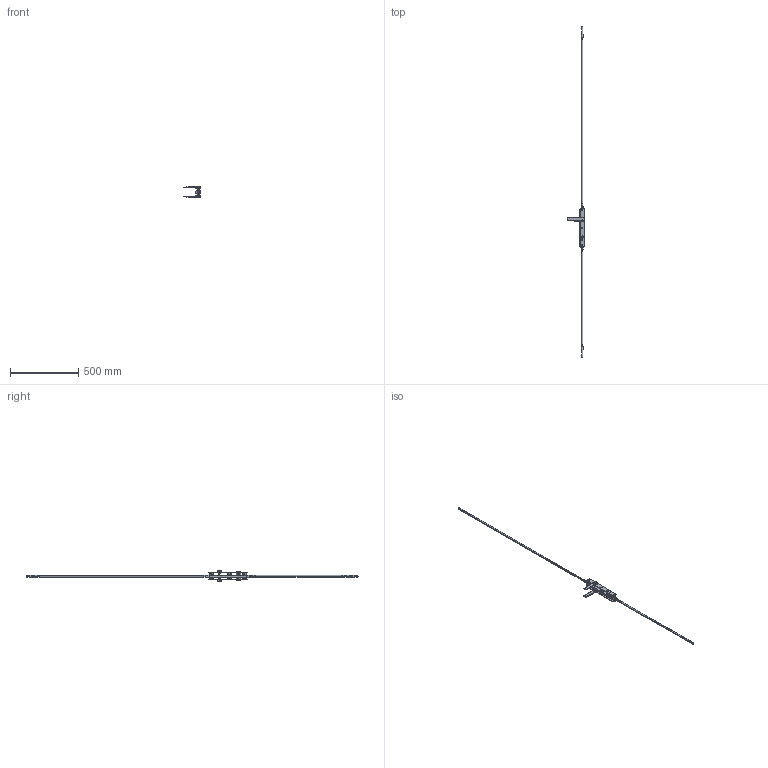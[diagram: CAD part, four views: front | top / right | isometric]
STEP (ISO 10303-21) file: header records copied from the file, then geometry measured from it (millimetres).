
FILE_DESCRIPTION (( 'STEP AP214' ), '1' );
FILE_NAME ('TPL-H-APC-106-A 17Oct2024.STEP', '2024-10-17T04:39:36', ( '' ), ( '' ), 'SwSTEP 2.0', 'SolidWorks 2023', '' );
FILE_SCHEMA (( 'AUTOMOTIVE_DESIGN' ));
Length unit declared in the file: millimetre
Products named in the file (23): Copy of LKC-585 Rotator body zinc^Copy (2) of TPGen2 handle keyed internal zinc - simplified_TPL-H-APC-608 16Oct2024; Copy of LKC-585 Rotator body zinc^Copy of TPGen2 handle keyed external zinc - simplified_TPL-H-APC-608 16Oct2024; Copy of TPLGen2 push rod - simplified^Copy (2) of TPLGen2 lock body keyed assembly_TPL-H-APC-608 16Oct2024_Female thread M10; Copy of LKC-584 Pivot body zinc - simplified^Copy of TPGen2 handle keyed external zinc - simplified_TPL-H-APC-608 16Oct2024; Copy of LKC-505 Swing handle zinc - simplified^Copy (2) of TPGen2 handle keyed internal zinc - simplified_TPL-H-APC-608 16Oct2024; Copy of TPLGen2 lock body keyed^Copy (2) of TPLGen2 lock body keyed assembly_TPL-H-APC-608 16Oct2024_Left; Copy of LKC-512 Escutcheon plate keyed internal 285mm long zinc - simplified^Copy (2) of TPGen2 handle keyed internal zinc - simplified_TPL-H-APC-608 16Oct2024; Copy of LKC-540 Transmission rod aluminium system TPLGen2^TPL-H-APC-608 16Oct2024_2885mm; Copy of LKC-586 Spindle square 8mm with M4 hole^Copy (2) of TPGen2 handle keyed internal zinc - simplified_TPL-H-APC-608 16Oct2024_46mm; Copy of TPL-H-APC-517 04Oct2024^TPL-H-APC-608 16Oct2024; Copy of TPGen2 handle keyed external zinc - simplified^TPL-H-APC-608 16Oct2024_Right; Copy of TPL-H-APC-516 04Oct2024^TPL-H-APC-608 16Oct2024; Copy of LKC-584 Pivot body zinc - simplified^Copy (2) of TPGen2 handle keyed internal zinc - simplified_TPL-H-APC-608 16Oct2024; Copy of LKC-505 Swing handle zinc - simplified^Copy of TPGen2 handle keyed external zinc - simplified_TPL-H-APC-608 16Oct2024; Copy (2) of TPL-H-APC-515 04Oct2024^TPL-H-APC-608 16Oct2024; Copy of TPL-021 Lock cylinder double key C4 5 pin 62 (30-32)mm^TPL-H-APC-608 16Oct2024_Right; Copy (2) of TPGen2 handle keyed internal zinc - simplified^TPL-H-APC-608 16Oct2024_Left; Copy of LKC-576 Bolt adaptor - simplified^TPL-H-APC-608 16Oct2024; Copy of LKC-514 Escutcheon plate keyed external 285mm long zinc - simplified^Copy of TPGen2 handle keyed external zinc - simplified_TPL-H-APC-608 16Oct2024; Copy (2) of TPLGen2 lock body keyed assembly^TPL-H-APC-608 16Oct2024_Bolts retracted - left; Copy of LKC-532 Rod connector - simplified^TPL-H-APC-608 16Oct2024; TPL-H-APC-106-A 17Oct2024; Copy (2) of LKC-540 Transmission rod aluminium system TPLGen2^TPL-H-APC-608 16Oct2024_2885mm
Assembly tree (30 placements, depth 3):
  TPL-H-APC-106-A 17Oct2024
    Copy (2) of TPLGen2 lock body keyed assembly^TPL-H-APC-608 16Oct2024_Bolts retracted - left
      Copy of TPLGen2 lock body keyed^Copy (2) of TPLGen2 lock body keyed assembly_TPL-H-APC-608 16Oct2024_Left
      Copy of TPLGen2 push rod - simplified^Copy (2) of TPLGen2 lock body keyed assembly_TPL-H-APC-608 16Oct2024_Female thread M10  x2
    Copy (2) of TPGen2 handle keyed internal zinc - simplified^TPL-H-APC-608 16Oct2024_Left
      Copy of LKC-512 Escutcheon plate keyed internal 285mm long zinc - simplified^Copy (2) of TPGen2 handle keyed internal zinc - simplified_TPL-H-APC-608 16Oct2024
      Copy of LKC-505 Swing handle zinc - simplified^Copy (2) of TPGen2 handle keyed internal zinc - simplified_TPL-H-APC-608 16Oct2024
      Copy of LKC-585 Rotator body zinc^Copy (2) of TPGen2 handle keyed internal zinc - simplified_TPL-H-APC-608 16Oct2024
      Copy of LKC-586 Spindle square 8mm with M4 hole^Copy (2) of TPGen2 handle keyed internal zinc - simplified_TPL-H-APC-608 16Oct2024_46mm
      Copy of LKC-584 Pivot body zinc - simplified^Copy (2) of TPGen2 handle keyed internal zinc - simplified_TPL-H-APC-608 16Oct2024
    Copy of TPGen2 handle keyed external zinc - simplified^TPL-H-APC-608 16Oct2024_Right
      Copy of LKC-514 Escutcheon plate keyed external 285mm long zinc - simplified^Copy of TPGen2 handle keyed external zinc - simplified_TPL-H-APC-608 16Oct2024
      Copy of LKC-505 Swing handle zinc - simplified^Copy of TPGen2 handle keyed external zinc - simplified_TPL-H-APC-608 16Oct2024
      Copy of LKC-585 Rotator body zinc^Copy of TPGen2 handle keyed external zinc - simplified_TPL-H-APC-608 16Oct2024
      Copy of LKC-584 Pivot body zinc - simplified^Copy of TPGen2 handle keyed external zinc - simplified_TPL-H-APC-608 16Oct2024
    Copy of TPL-021 Lock cylinder double key C4 5 pin 62 (30-32)mm^TPL-H-APC-608 16Oct2024_Right
    Copy of LKC-532 Rod connector - simplified^TPL-H-APC-608 16Oct2024  x2
    Copy of LKC-540 Transmission rod aluminium system TPLGen2^TPL-H-APC-608 16Oct2024_2885mm
    Copy (2) of LKC-540 Transmission rod aluminium system TPLGen2^TPL-H-APC-608 16Oct2024_2885mm
    Copy of LKC-576 Bolt adaptor - simplified^TPL-H-APC-608 16Oct2024  x2
    Copy of TPL-H-APC-517 04Oct2024^TPL-H-APC-608 16Oct2024  x2
    Copy of TPL-H-APC-516 04Oct2024^TPL-H-APC-608 16Oct2024  x3
    Copy (2) of TPL-H-APC-515 04Oct2024^TPL-H-APC-608 16Oct2024  x3
Bounding box: 125.62 x 2440 x 76.92 mm (x, y, z)
Volume: 414247.4 mm3; surface area: 271343.7 mm2
Topology: 27 solids, 27 shells, 2258 faces, 5473 edges, 3298 vertices
Faces by surface type: cylinder 704, plane 632, bspline 448, torus 228, cone 184, sphere 62
Entity records: 57834 total; most frequent: CARTESIAN_POINT 24643, ORIENTED_EDGE 7158, DIRECTION 6389, EDGE_CURVE 3579, AXIS2_PLACEMENT_3D 2561, VERTEX_POINT 2163, EDGE_LOOP 1656, ADVANCED_FACE 1514
